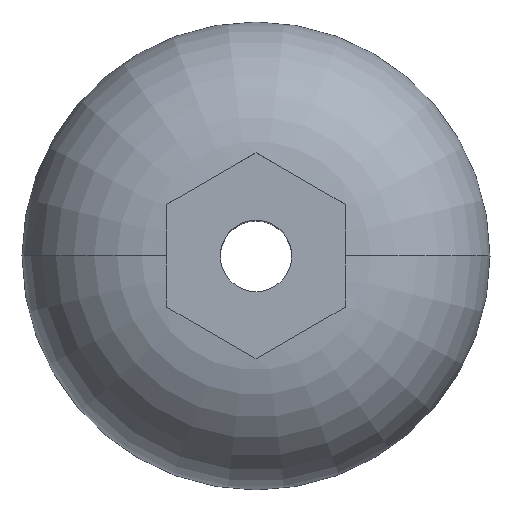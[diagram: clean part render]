
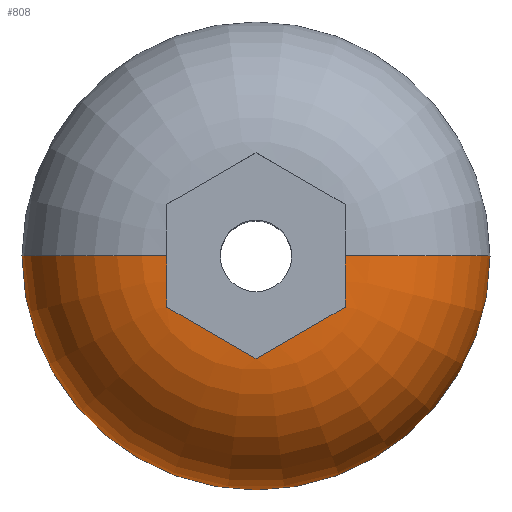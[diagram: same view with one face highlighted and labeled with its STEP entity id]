
A CAD part, top view. The second image highlights one B-rep face of the part: STEP entity #808.
In plain terms, the highlighted toroidal (fillet/blend) face has major radius 1.95 mm and minor radius 3.3 mm.
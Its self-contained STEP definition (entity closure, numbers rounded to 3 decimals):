
#3 = ORIENTED_EDGE ( 'NONE', *, *, #1336, .F. ) ;
#23 = CARTESIAN_POINT ( 'NONE',  ( 0., 0., 0. ) ) ;
#95 = VERTEX_POINT ( 'NONE', #727 ) ;
#138 = DIRECTION ( 'NONE',  ( 0., 0., 1. ) ) ;
#190 = CARTESIAN_POINT ( 'NONE',  ( 2., -0.77, 3.295 ) ) ;
#234 = CIRCLE ( 'NONE', #809, 5.25 ) ;
#235 = CIRCLE ( 'NONE', #803, 3.3 ) ;
#264 = CIRCLE ( 'NONE', #341, 3.3 ) ;
#307 = CARTESIAN_POINT ( 'NONE',  ( 2., -1.155, 3.28 ) ) ;
#323 = B_SPLINE_CURVE_WITH_KNOTS ( 'NONE', 3,
 ( #435, #776, #683, #1150, #1261 ),
 .UNSPECIFIED., .F., .F.,
 ( 4, 1, 4 ),
 ( 0., 0.001, 0.002 ),
 .UNSPECIFIED. ) ;
#341 = AXIS2_PLACEMENT_3D ( 'NONE', #497, #718, #947 ) ;
#348 = CARTESIAN_POINT ( 'NONE',  ( -2., -0.963, 3.291 ) ) ;
#424 = CARTESIAN_POINT ( 'NONE',  ( 0., -2.309, 3.28 ) ) ;
#433 = VERTEX_POINT ( 'NONE', #755 ) ;
#434 = B_SPLINE_CURVE_WITH_KNOTS ( 'NONE', 3,
 ( #1438, #749, #1424, #190, #976, #307 ),
 .UNSPECIFIED., .F., .F.,
 ( 4, 2, 4 ),
 ( 0., 0.001, 0.001 ),
 .UNSPECIFIED. ) ;
#435 = CARTESIAN_POINT ( 'NONE',  ( 2., -1.155, 3.28 ) ) ;
#497 = CARTESIAN_POINT ( 'NONE',  ( 1.95, 0., 0. ) ) ;
#518 = CARTESIAN_POINT ( 'NONE',  ( -2., -1.155, 3.28 ) ) ;
#532 = CARTESIAN_POINT ( 'NONE',  ( -2., 0., 3.3 ) ) ;
#542 = CARTESIAN_POINT ( 'NONE',  ( -0.333, -2.117, 3.301 ) ) ;
#543 = ORIENTED_EDGE ( 'NONE', *, *, #770, .T. ) ;
#561 = DIRECTION ( 'NONE',  ( -1., 0., 0. ) ) ;
#598 = EDGE_CURVE ( 'NONE', #95, #907, #234, .T. ) ;
#646 = AXIS2_PLACEMENT_3D ( 'NONE', #23, #138, #901 ) ;
#655 = CARTESIAN_POINT ( 'NONE',  ( -1., -1.732, 3.298 ) ) ;
#660 = EDGE_CURVE ( 'NONE', #433, #1033, #761, .T. ) ;
#681 = EDGE_LOOP ( 'NONE', ( #3, #1211, #1351, #740, #543, #1258, #1322 ) ) ;
#683 = CARTESIAN_POINT ( 'NONE',  ( 1., -1.732, 3.298 ) ) ;
#717 = CARTESIAN_POINT ( 'NONE',  ( -2., -1.155, 3.28 ) ) ;
#718 = DIRECTION ( 'NONE',  ( 0., -1., 0. ) ) ;
#727 = CARTESIAN_POINT ( 'NONE',  ( -5.25, 0., 0. ) ) ;
#733 = CARTESIAN_POINT ( 'NONE',  ( 2., -1.155, 3.28 ) ) ;
#734 = CARTESIAN_POINT ( 'NONE',  ( 2., 0., 3.3 ) ) ;
#740 = ORIENTED_EDGE ( 'NONE', *, *, #1090, .T. ) ;
#749 = CARTESIAN_POINT ( 'NONE',  ( 2., -0.193, 3.3 ) ) ;
#755 = CARTESIAN_POINT ( 'NONE',  ( 0., -2.309, 3.28 ) ) ;
#761 = B_SPLINE_CURVE_WITH_KNOTS ( 'NONE', 3,
 ( #424, #542, #655, #1193, #518 ),
 .UNSPECIFIED., .F., .F.,
 ( 4, 1, 4 ),
 ( 0., 0.001, 0.002 ),
 .UNSPECIFIED. ) ;
#770 = EDGE_CURVE ( 'NONE', #1172, #433, #323, .T. ) ;
#772 = EDGE_CURVE ( 'NONE', #1033, #1159, #879, .T. ) ;
#776 = CARTESIAN_POINT ( 'NONE',  ( 1.667, -1.347, 3.301 ) ) ;
#789 = CARTESIAN_POINT ( 'NONE',  ( -2., -0.194, 3.3 ) ) ;
#794 = CARTESIAN_POINT ( 'NONE',  ( -1.95, 0., 0. ) ) ;
#803 = AXIS2_PLACEMENT_3D ( 'NONE', #794, #889, #561 ) ;
#808 = ADVANCED_FACE ( 'NONE', ( #1446 ), #1020, .T. ) ;
#809 = AXIS2_PLACEMENT_3D ( 'NONE', #1210, #1204, #854 ) ;
#841 = EDGE_CURVE ( 'NONE', #907, #905, #264, .T. ) ;
#854 = DIRECTION ( 'NONE',  ( 1., 0., 0. ) ) ;
#879 = B_SPLINE_CURVE_WITH_KNOTS ( 'NONE', 3,
 ( #1130, #348, #1021, #1142, #789, #1256 ),
 .UNSPECIFIED., .F., .F.,
 ( 4, 2, 4 ),
 ( 0.026, 0.026, 0.027 ),
 .UNSPECIFIED. ) ;
#889 = DIRECTION ( 'NONE',  ( 0., 1., 0. ) ) ;
#901 = DIRECTION ( 'NONE',  ( 1., 0., 0. ) ) ;
#905 = VERTEX_POINT ( 'NONE', #734 ) ;
#907 = VERTEX_POINT ( 'NONE', #1103 ) ;
#947 = DIRECTION ( 'NONE',  ( 0., 0., -1. ) ) ;
#976 = CARTESIAN_POINT ( 'NONE',  ( 2., -0.963, 3.291 ) ) ;
#1020 = TOROIDAL_SURFACE ( 'NONE', #646, 1.95, 3.3 ) ;
#1021 = CARTESIAN_POINT ( 'NONE',  ( -2., -0.77, 3.295 ) ) ;
#1033 = VERTEX_POINT ( 'NONE', #717 ) ;
#1090 = EDGE_CURVE ( 'NONE', #905, #1172, #434, .T. ) ;
#1103 = CARTESIAN_POINT ( 'NONE',  ( 5.25, 0., 0. ) ) ;
#1130 = CARTESIAN_POINT ( 'NONE',  ( -2., -1.155, 3.28 ) ) ;
#1142 = CARTESIAN_POINT ( 'NONE',  ( -2., -0.385, 3.3 ) ) ;
#1150 = CARTESIAN_POINT ( 'NONE',  ( 0.333, -2.117, 3.301 ) ) ;
#1159 = VERTEX_POINT ( 'NONE', #532 ) ;
#1172 = VERTEX_POINT ( 'NONE', #733 ) ;
#1193 = CARTESIAN_POINT ( 'NONE',  ( -1.667, -1.347, 3.301 ) ) ;
#1204 = DIRECTION ( 'NONE',  ( 0., 0., 1. ) ) ;
#1210 = CARTESIAN_POINT ( 'NONE',  ( 0., 0., 0. ) ) ;
#1211 = ORIENTED_EDGE ( 'NONE', *, *, #598, .T. ) ;
#1256 = CARTESIAN_POINT ( 'NONE',  ( -2., 0., 3.3 ) ) ;
#1258 = ORIENTED_EDGE ( 'NONE', *, *, #660, .T. ) ;
#1261 = CARTESIAN_POINT ( 'NONE',  ( 0., -2.309, 3.28 ) ) ;
#1322 = ORIENTED_EDGE ( 'NONE', *, *, #772, .T. ) ;
#1336 = EDGE_CURVE ( 'NONE', #95, #1159, #235, .T. ) ;
#1351 = ORIENTED_EDGE ( 'NONE', *, *, #841, .T. ) ;
#1424 = CARTESIAN_POINT ( 'NONE',  ( 2., -0.385, 3.3 ) ) ;
#1438 = CARTESIAN_POINT ( 'NONE',  ( 2., 0., 3.3 ) ) ;
#1446 = FACE_OUTER_BOUND ( 'NONE', #681, .T. ) ;
